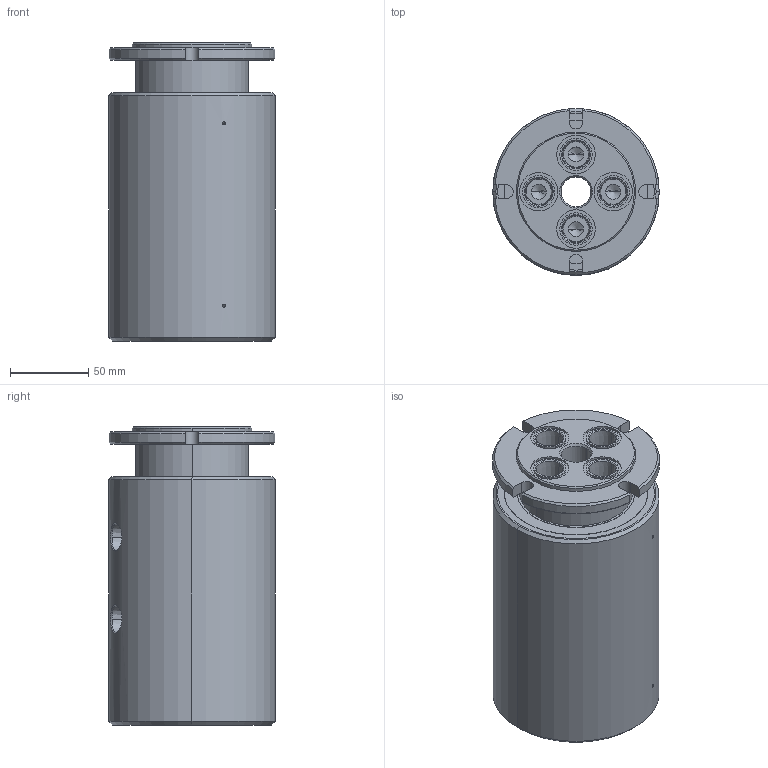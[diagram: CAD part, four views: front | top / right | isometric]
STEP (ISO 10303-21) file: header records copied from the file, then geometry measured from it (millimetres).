
FILE_DESCRIPTION (( 'STEP AP214' ), '1' );
FILE_NAME ('GP(M)-341.STEP', '2013-02-05T23:01:00', ( '' ), ( '' ), 'SwSTEP 2.0', 'SolidWorks 2011', '' );
FILE_SCHEMA (( 'AUTOMOTIVE_DESIGN' ));
Length unit declared in the file: inch
Products named in the file (1): GP(M)-341
Bounding box: 106.35 x 106.35 x 190.42 mm (x, y, z)
Volume: 1445167.8 mm3; surface area: 113527.7 mm2
Topology: 1 solids, 1 shells, 227 faces, 536 edges, 323 vertices
Faces by surface type: cylinder 95, cone 78, plane 44, bspline 8, torus 2
Entity records: 7732 total; most frequent: CARTESIAN_POINT 2219, DIRECTION 1130, ORIENTED_EDGE 1004, EDGE_CURVE 502, AXIS2_PLACEMENT_3D 464, VERTEX_POINT 323, EDGE_LOOP 275, CIRCLE 244
